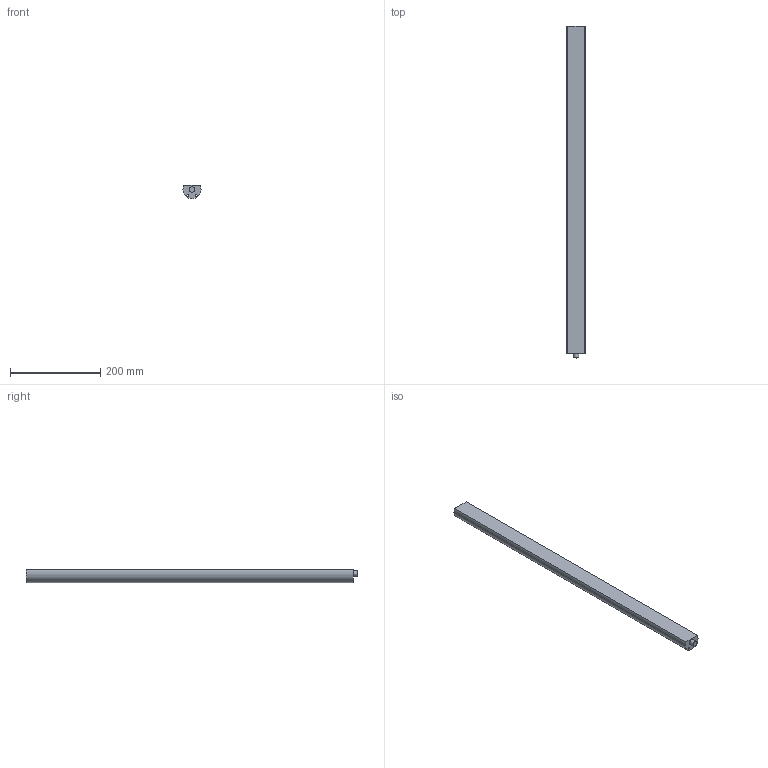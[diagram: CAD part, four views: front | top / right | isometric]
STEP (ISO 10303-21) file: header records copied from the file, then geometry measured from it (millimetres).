
FILE_DESCRIPTION(('FreeCAD Model'),'2;1');
FILE_NAME('Open CASCADE Shape Model','2026-01-08T09:10:28',(''),(''), 'Open CASCADE STEP processor 7.6','FreeCAD','Unknown');
FILE_SCHEMA(('AUTOMOTIVE_DESIGN { 1 0 10303 214 1 1 1 1 }'));
Length unit declared in the file: millimetre
Products named in the file (1): Körper
Bounding box: 39.96 x 734 x 29 mm (x, y, z)
Volume: 683728 mm3; surface area: 107497.6 mm2
Topology: 1 solids, 1 shells, 8 faces, 15 edges, 10 vertices
Faces by surface type: cylinder 4, plane 4
Full cylindrical faces by diameter (mm): 4.5 x2, 12 x1
Entity records: 237 total; most frequent: DIRECTION 41, CARTESIAN_POINT 34, ORIENTED_EDGE 30, AXIS2_PLACEMENT_3D 17, EDGE_CURVE 15, FACE_BOUND 13, EDGE_LOOP 13, VERTEX_POINT 10
